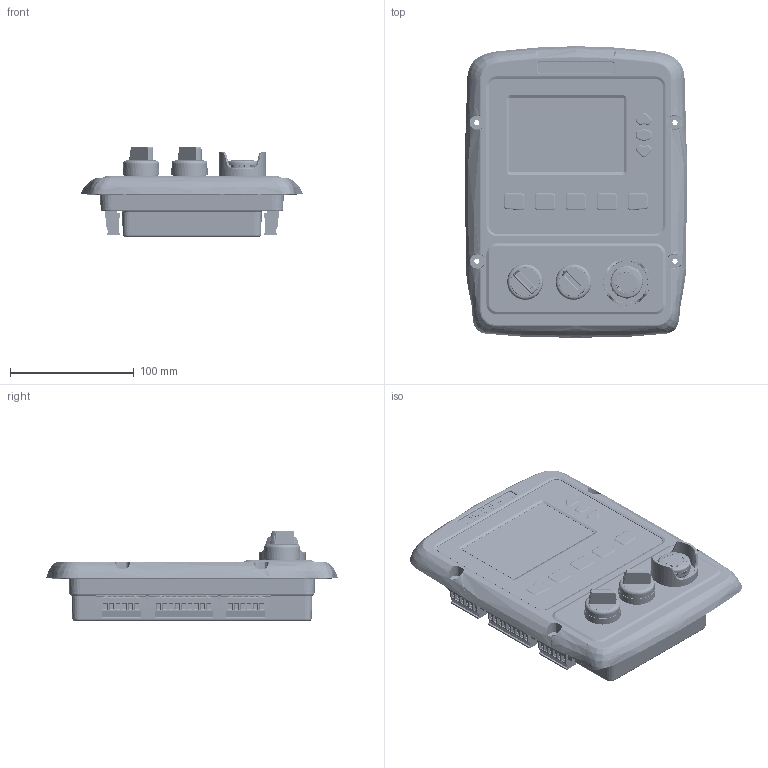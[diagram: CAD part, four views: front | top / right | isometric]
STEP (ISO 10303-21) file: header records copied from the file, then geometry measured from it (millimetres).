
FILE_DESCRIPTION((''),'2;1');
FILE_NAME('MODEL1','2024-09-04T18:27:50',('Administrator'),(''),'CREO PARAMETRIC BY PTC INC, 2019010','CREO PARAMETRIC BY PTC INC, 2019010','');
FILE_SCHEMA(('AUTOMOTIVE_DESIGN { 1 0 10303 214 1 1 1 1 }'));
Products named in the file (1): MODEL1
Bounding box: 179.48 x 235.48 x 72.89 mm (x, y, z)
Volume: 1359745.7 mm3; surface area: 186716.7 mm2
Topology: 1 solids, 62 shells, 7909 faces, 23747 edges, 15958 vertices
Faces by surface type: plane 4784, cylinder 1552, cone 567, bspline 417, torus 361, sphere 184, extrusion 44
Entity records: 349855 total; most frequent: CARTESIAN_POINT 84174, ORIENTED_EDGE 46940, DIRECTION 40517, EDGE_CURVE 23470, VERTEX_POINT 15912, VECTOR 13673, LINE 13629, AXIS2_PLACEMENT_3D 13422
